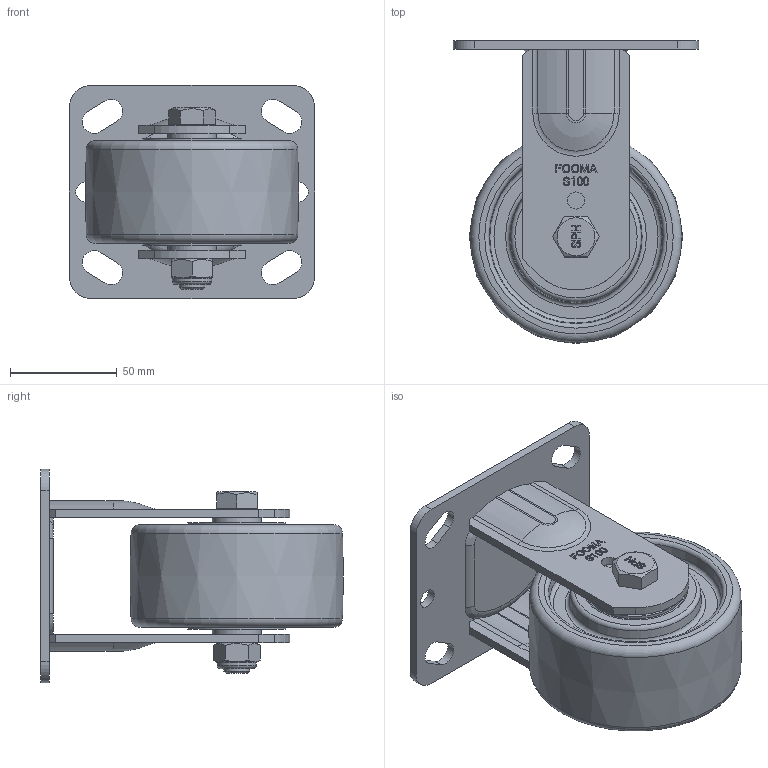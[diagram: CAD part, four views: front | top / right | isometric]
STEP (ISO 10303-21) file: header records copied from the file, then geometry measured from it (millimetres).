
FILE_DESCRIPTION(/* description */ (''),/* implementation_level */ '2;1');
FILE_NAME(/* name */ 'C:\Users\admin\Desktop\업무폴더\일자별 업무\2026\05월\05.15\변환\SPH-100-ARF-NYD.ipt.stp',/* time_stamp */ '2026-05-15T13:16:11+09:00',/* author */ ('admin'),/* organization */ ('지덕산업'),/* preprocessor_version */ 'ST-DEVELOPER v18.1',/* originating_system */ 'Autodesk Inventor 2021',/* authorisation */ '');
FILE_SCHEMA (('CONFIG_CONTROL_DESIGN'));
Length unit declared in the file: millimetre
Products named in the file (1): SPH-100-ARF-NYD
Bounding box: 115 x 142 x 100 mm (x, y, z)
Volume: 434017.3 mm3; surface area: 83394.6 mm2
Topology: 1 solids, 1 shells, 1010 faces, 2723 edges, 1804 vertices
Faces by surface type: plane 460, bspline 442, cylinder 57, torus 30, cone 17, sphere 4
Full cylindrical faces by diameter (mm): 8 x2, 9 x2, 12 x1, 18 x1, 18.5 x1, 46.001 x2, 47 x2
Entity records: 32562 total; most frequent: CARTESIAN_POINT 10016, ORIENTED_EDGE 5446, DIRECTION 3190, EDGE_CURVE 2723, VERTEX_POINT 1804, LINE 1598, VECTOR 1598, EDGE_LOOP 1117
